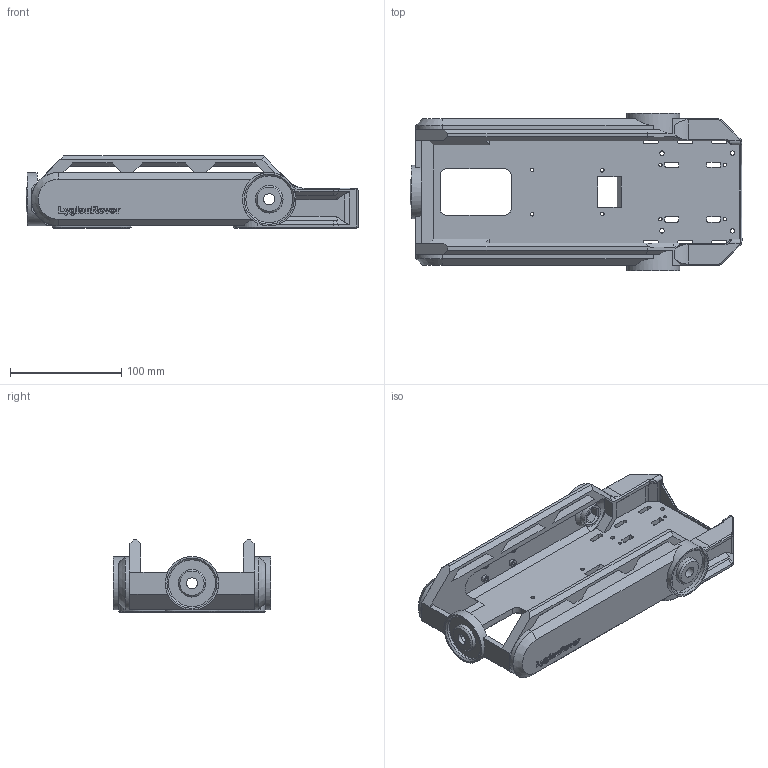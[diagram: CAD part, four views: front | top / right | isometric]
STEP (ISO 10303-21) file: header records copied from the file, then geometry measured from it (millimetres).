
FILE_DESCRIPTION(/* description */ (''),/* implementation_level */ '2;1');
FILE_NAME(/* name */ '3DP_Body x1.step',/* time_stamp */ '2025-11-20T01:03:05+08:00',/* author */ (''),/* organization */ (''),/* preprocessor_version */ 'ST-DEVELOPER v20.1',/* originating_system */ 'Autodesk Translation Framework v14.21.0.0',/* authorisation */ '');
FILE_SCHEMA (('AUTOMOTIVE_DESIGN { 1 0 10303 214 3 1 1 }'));
Length unit declared in the file: millimetre
Products named in the file (1): 3DP_Body x1
Bounding box: 299.01 x 142 x 65.1 mm (x, y, z)
Volume: 415654.3 mm3; surface area: 172403.5 mm2
Topology: 1 solids, 1 shells, 826 faces, 2220 edges, 1437 vertices
Faces by surface type: plane 443, bspline 221, cylinder 112, cone 50
Full cylindrical faces by diameter (mm): 3 x8, 3.2 x4, 4 x4, 6 x4, 10 x3, 21 x2, 24.9 x3, 42.1 x3, 48.1 x3
Entity records: 28619 total; most frequent: CARTESIAN_POINT 9042, ORIENTED_EDGE 4440, DIRECTION 3308, EDGE_CURVE 2220, LINE 1446, VECTOR 1446, VERTEX_POINT 1437, EDGE_LOOP 941
